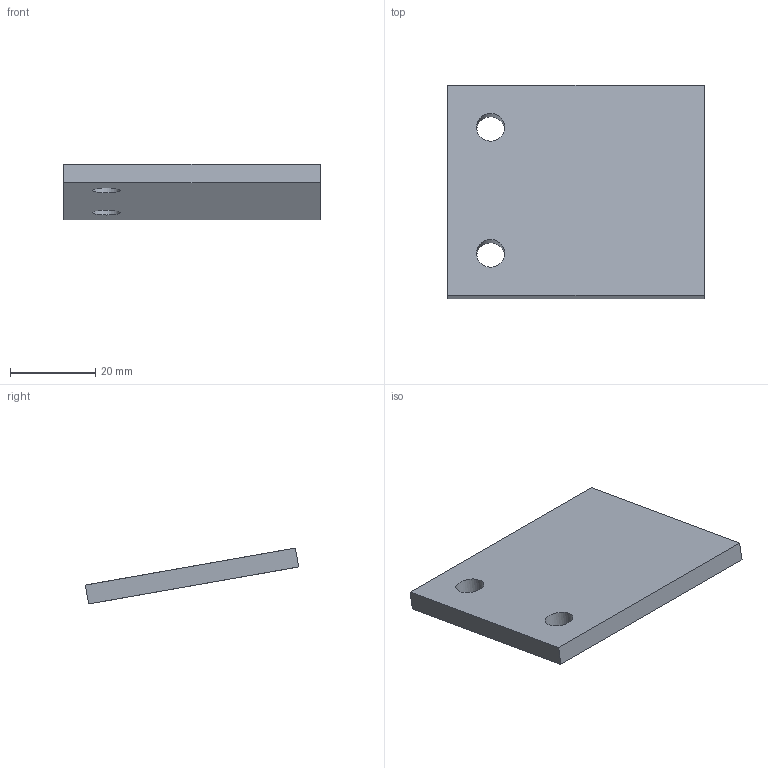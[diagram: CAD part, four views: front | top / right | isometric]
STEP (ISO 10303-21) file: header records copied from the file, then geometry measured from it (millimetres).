
FILE_DESCRIPTION(('golf model'),'2;1');
FILE_NAME('golf','',(''),(''),'golf_step_io','golf','');
FILE_SCHEMA(('AUTOMOTIVE_DESIGN { 1 0 10303 214 1 1 1 1 }'));
Length unit declared in the file: millimetre
Products named in the file (2): ASSEMBLY; y_carriage.z_chain_fix
Assembly tree (1 placements, depth 2):
  ASSEMBLY
    y_carriage.z_chain_fix
Bounding box: 60 x 50.02 x 13.11 mm (x, y, z)
Volume: 13192.1 mm3; surface area: 7039.8 mm2
Topology: 1 solids, 1 shells, 8 faces, 18 edges, 12 vertices
Faces by surface type: plane 6, cylinder 2
Full cylindrical faces by diameter (mm): 6.6 x2
Entity records: 258 total; most frequent: DIRECTION 40, CARTESIAN_POINT 38, ORIENTED_EDGE 32, EDGE_CURVE 16, AXIS2_PLACEMENT_3D 14, EDGE_LOOP 14, VERTEX_POINT 12, VECTOR 12
